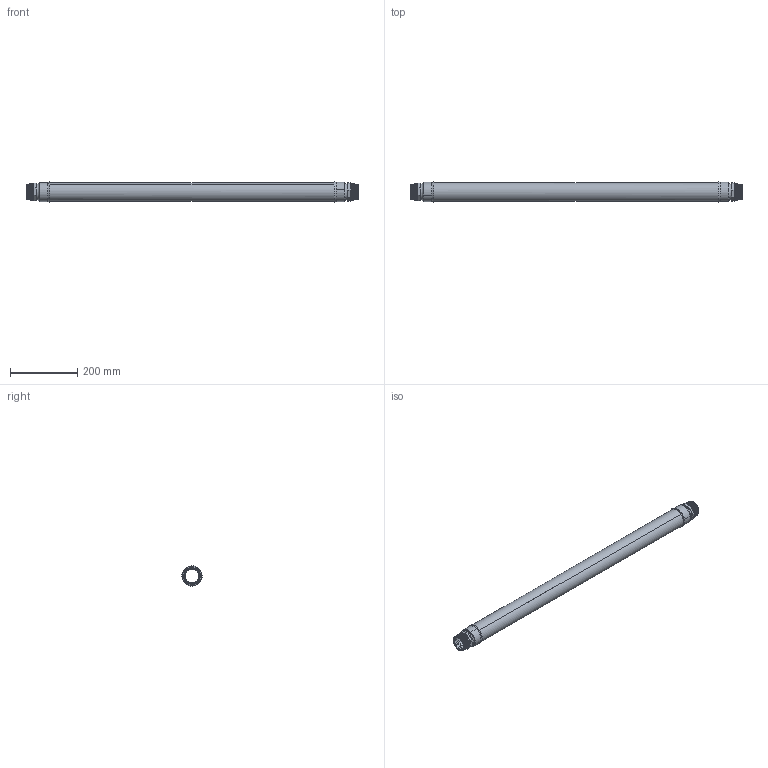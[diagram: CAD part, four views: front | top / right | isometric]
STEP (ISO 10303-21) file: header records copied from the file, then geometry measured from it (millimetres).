
FILE_DESCRIPTION (( 'STEP AP203' ), '1' );
FILE_NAME ('KP_TN40-10S.step', '2011-08-08T11:47:18', ( '' ), ( '' ), 'SwSTEP 2.0', 'SolidWorks 2011', '' );
FILE_SCHEMA (( 'CONFIG_CONTROL_DESIGN' ));
Length unit declared in the file: millimetre
Products named in the file (1): KP_TN40-10S
Bounding box: 986.09 x 60.3 x 60.3 mm (x, y, z)
Volume: 442569.3 mm3; surface area: 338023.7 mm2
Topology: 1 solids, 1 shells, 128 faces, 324 edges, 208 vertices
Faces by surface type: cone 70, plane 30, cylinder 20, bspline 8
Entity records: 18775 total; most frequent: CARTESIAN_POINT 15823, ORIENTED_EDGE 648, DIRECTION 516, EDGE_CURVE 324, VERTEX_POINT 208, AXIS2_PLACEMENT_3D 201, EDGE_LOOP 140, B_SPLINE_CURVE_WITH_KNOTS 130
